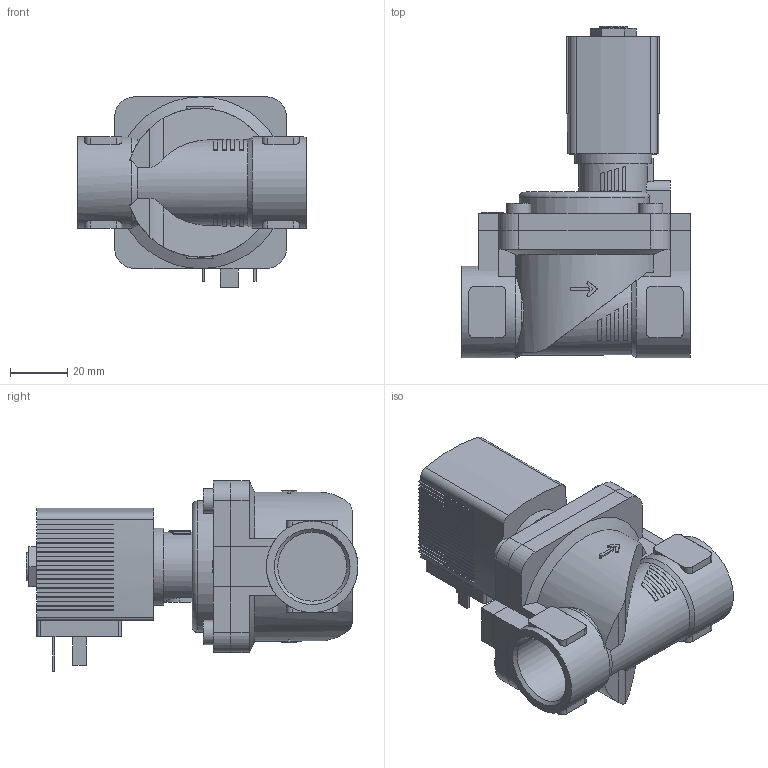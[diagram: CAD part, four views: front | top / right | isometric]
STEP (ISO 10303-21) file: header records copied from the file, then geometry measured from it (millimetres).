
FILE_DESCRIPTION(/* description */ ('STEP AP214'),/* implementation_level */ '2;1');
FILE_NAME(/* name */ '6281-238443-2_2-Way_Solenoid_Valve__Servo-assisted__General_Purpose',/* time_stamp */ '2024-05-20T12:24:12+02:00',/* author */ ('License CC BY-ND 4.0'),/* organization */ ('CADENAS'),/* preprocessor_version */ 'ST-DEVELOPER v19.3',/* originating_system */ 'PARTsolutions',/* authorisation */ ' ');
FILE_SCHEMA (('AUTOMOTIVE_DESIGN {1 0 10303 214 3 1 1}'));
Length unit declared in the file: millimetre
Products named in the file (4): 6281-238443-2/2-Way Solenoid Valve, Servo-assisted, General Purpose; 5281ev200VA2/2-Wege-Magnetventil mit Servomembran-Deckel   ; 6213-20G3/4MS-Gehaeuse-; AC10ex-5OO-Plan-Coil
Assembly tree (3 placements, depth 2):
  6281-238443-2/2-Way Solenoid Valve, Servo-assisted, General Purpose
    5281ev200VA2/2-Wege-Magnetventil mit Servomembran-Deckel   
    6213-20G3/4MS-Gehaeuse-
    AC10ex-5OO-Plan-Coil
Bounding box: 80 x 116 x 66.5 mm (x, y, z)
Volume: 197820.8 mm3; surface area: 43129.7 mm2
Topology: 3 solids, 3 shells, 534 faces, 1463 edges, 970 vertices
Faces by surface type: plane 432, cylinder 86, cone 15, torus 1
Full cylindrical faces by diameter (mm): 2.013 x1, 8.5 x4, 9.74 x1, 24.117 x2, 27 x1, 32 x1
Entity records: 19527 total; most frequent: CARTESIAN_POINT 3197, ORIENTED_EDGE 2886, DIRECTION 2772, EDGE_CURVE 1443, LINE 1060, VECTOR 1060, VERTEX_POINT 963, AXIS2_PLACEMENT_3D 856
